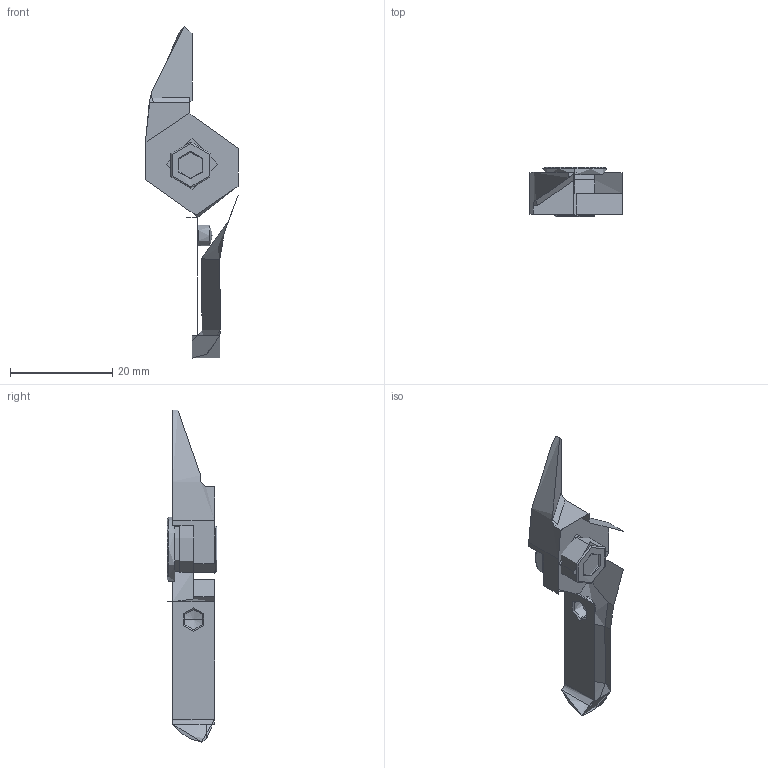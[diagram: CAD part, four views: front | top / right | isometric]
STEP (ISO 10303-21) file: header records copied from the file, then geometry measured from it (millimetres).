
FILE_DESCRIPTION (( 'STEP AP214' ), '1' );
FILE_NAME ('NY15AJB.STEP', '2019-11-28T03:24:06', ( '微软用户' ), ( '微软中国' ), 'SwSTEP 2.0', 'SolidWorks 2016', '' );
FILE_SCHEMA (( 'AUTOMOTIVE_DESIGN' ));
Length unit declared in the file: millimetre
Products named in the file (4): BS; NY15AJB; BR2; BR1
Assembly tree (3 placements, depth 2):
  NY15AJB
    BS
    BR1
    BR2
Bounding box: 18 x 9.7 x 64.94 mm (x, y, z)
Topology: 1 solids, 10 shells, 73 faces, 184 edges, 125 vertices
Faces by surface type: cylinder 26, plane 20, cone 14, bspline 9, torus 4
Full cylindrical faces by diameter (mm): 9 x1, 19 x1
Entity records: 4665 total; most frequent: CARTESIAN_POINT 1792, ORIENTED_EDGE 625, DIRECTION 493, EDGE_CURVE 313, VERTEX_POINT 206, AXIS2_PLACEMENT_3D 180, VECTOR 132, LINE 131
